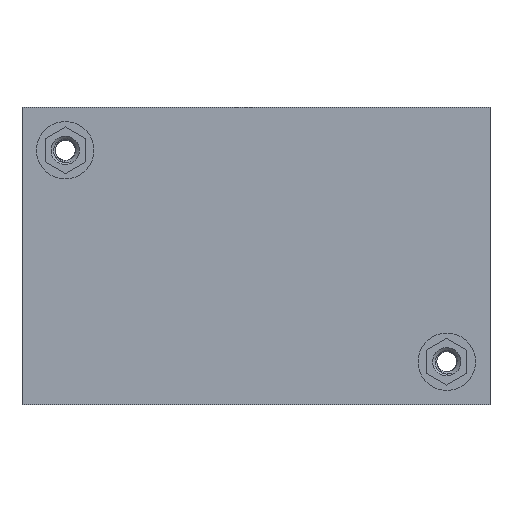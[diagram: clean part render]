
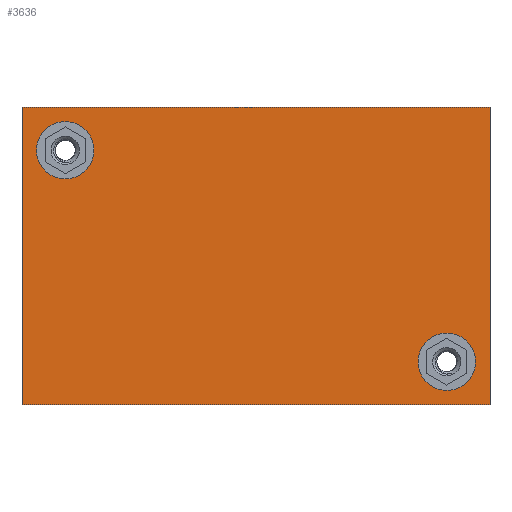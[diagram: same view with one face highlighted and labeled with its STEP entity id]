
A CAD part, front view. The second image highlights one B-rep face of the part: STEP entity #3636.
In plain terms, the highlighted planar face has unit normal (0, -1, 0).
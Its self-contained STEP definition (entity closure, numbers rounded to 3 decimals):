
#29 = DIRECTION ( 'NONE',  ( 0., 0., 1. ) ) ;
#203 = CARTESIAN_POINT ( 'NONE',  ( 28.95, -1.2, -18.4 ) ) ;
#816 = CARTESIAN_POINT ( 'NONE',  ( 23.6, -1.2, -9.53 ) ) ;
#954 = VERTEX_POINT ( 'NONE', #816 ) ;
#1714 = CIRCLE ( 'NONE', #18540, 3.55 ) ;
#3050 = DIRECTION ( 'NONE',  ( -1., 0., 0. ) ) ;
#3636 = ADVANCED_FACE ( 'NONE', ( #16291, #7900, #14199 ), #18017, .T. ) ;
#4136 = CARTESIAN_POINT ( 'NONE',  ( -28.95, -1.2, 18.4 ) ) ;
#4206 = CARTESIAN_POINT ( 'NONE',  ( 28.95, -1.2, 18.4 ) ) ;
#4534 = ORIENTED_EDGE ( 'NONE', *, *, #8176, .F. ) ;
#4702 = DIRECTION ( 'NONE',  ( 0., 0., 1. ) ) ;
#4900 = VERTEX_POINT ( 'NONE', #4136 ) ;
#4933 = ORIENTED_EDGE ( 'NONE', *, *, #16812, .T. ) ;
#5520 = VECTOR ( 'NONE', #8213, 1000. ) ;
#5640 = CARTESIAN_POINT ( 'NONE',  ( -23.6, -1.2, 13.08 ) ) ;
#6199 = ORIENTED_EDGE ( 'NONE', *, *, #7381, .T. ) ;
#6420 = DIRECTION ( 'NONE',  ( 0., -1., 0. ) ) ;
#7381 = EDGE_CURVE ( 'NONE', #21082, #17021, #12145, .T. ) ;
#7900 = FACE_BOUND ( 'NONE', #22268, .T. ) ;
#8176 = EDGE_CURVE ( 'NONE', #12493, #12493, #1714, .T. ) ;
#8213 = DIRECTION ( 'NONE',  ( 0., 0., 1. ) ) ;
#9434 = VECTOR ( 'NONE', #22810, 1000. ) ;
#9851 = AXIS2_PLACEMENT_3D ( 'NONE', #16647, #6420, #4702 ) ;
#10901 = CARTESIAN_POINT ( 'NONE',  ( -28.95, -1.2, -18.4 ) ) ;
#11034 = LINE ( 'NONE', #10901, #17211 ) ;
#11204 = LINE ( 'NONE', #21054, #16408 ) ;
#11622 = CARTESIAN_POINT ( 'NONE',  ( 28.95, -1.2, 18.4 ) ) ;
#11625 = CARTESIAN_POINT ( 'NONE',  ( 28.95, -1.2, -18.4 ) ) ;
#12145 = LINE ( 'NONE', #203, #5520 ) ;
#12493 = VERTEX_POINT ( 'NONE', #16066 ) ;
#12756 = ORIENTED_EDGE ( 'NONE', *, *, #20528, .T. ) ;
#14199 = FACE_OUTER_BOUND ( 'NONE', #21041, .T. ) ;
#14784 = CARTESIAN_POINT ( 'NONE',  ( 28.95, -1.2, -18.4 ) ) ;
#15159 = VERTEX_POINT ( 'NONE', #17020 ) ;
#16066 = CARTESIAN_POINT ( 'NONE',  ( -23.6, -1.2, 16.63 ) ) ;
#16291 = FACE_BOUND ( 'NONE', #24823, .T. ) ;
#16408 = VECTOR ( 'NONE', #3050, 1000. ) ;
#16576 = EDGE_CURVE ( 'NONE', #954, #954, #19067, .T. ) ;
#16647 = CARTESIAN_POINT ( 'NONE',  ( 23.6, -1.2, -13.08 ) ) ;
#16812 = EDGE_CURVE ( 'NONE', #15159, #21082, #24522, .T. ) ;
#17020 = CARTESIAN_POINT ( 'NONE',  ( -28.95, -1.2, -18.4 ) ) ;
#17021 = VERTEX_POINT ( 'NONE', #11622 ) ;
#17211 = VECTOR ( 'NONE', #25353, 1000. ) ;
#18017 = PLANE ( 'NONE',  #21389 ) ;
#18058 = EDGE_CURVE ( 'NONE', #4900, #15159, #11034, .T. ) ;
#18389 = DIRECTION ( 'NONE',  ( 0., -1., 0. ) ) ;
#18540 = AXIS2_PLACEMENT_3D ( 'NONE', #5640, #25742, #25615 ) ;
#19067 = CIRCLE ( 'NONE', #9851, 3.55 ) ;
#20528 = EDGE_CURVE ( 'NONE', #17021, #4900, #11204, .T. ) ;
#21041 = EDGE_LOOP ( 'NONE', ( #6199, #12756, #21360, #4933 ) ) ;
#21054 = CARTESIAN_POINT ( 'NONE',  ( 28.95, -1.2, 18.4 ) ) ;
#21082 = VERTEX_POINT ( 'NONE', #11625 ) ;
#21360 = ORIENTED_EDGE ( 'NONE', *, *, #18058, .T. ) ;
#21389 = AXIS2_PLACEMENT_3D ( 'NONE', #4206, #18389, #29 ) ;
#22268 = EDGE_LOOP ( 'NONE', ( #4534 ) ) ;
#22488 = ORIENTED_EDGE ( 'NONE', *, *, #16576, .F. ) ;
#22810 = DIRECTION ( 'NONE',  ( 1., 0., 0. ) ) ;
#24522 = LINE ( 'NONE', #14784, #9434 ) ;
#24823 = EDGE_LOOP ( 'NONE', ( #22488 ) ) ;
#25353 = DIRECTION ( 'NONE',  ( 0., 0., -1. ) ) ;
#25615 = DIRECTION ( 'NONE',  ( 0., 0., 1. ) ) ;
#25742 = DIRECTION ( 'NONE',  ( 0., -1., 0. ) ) ;
